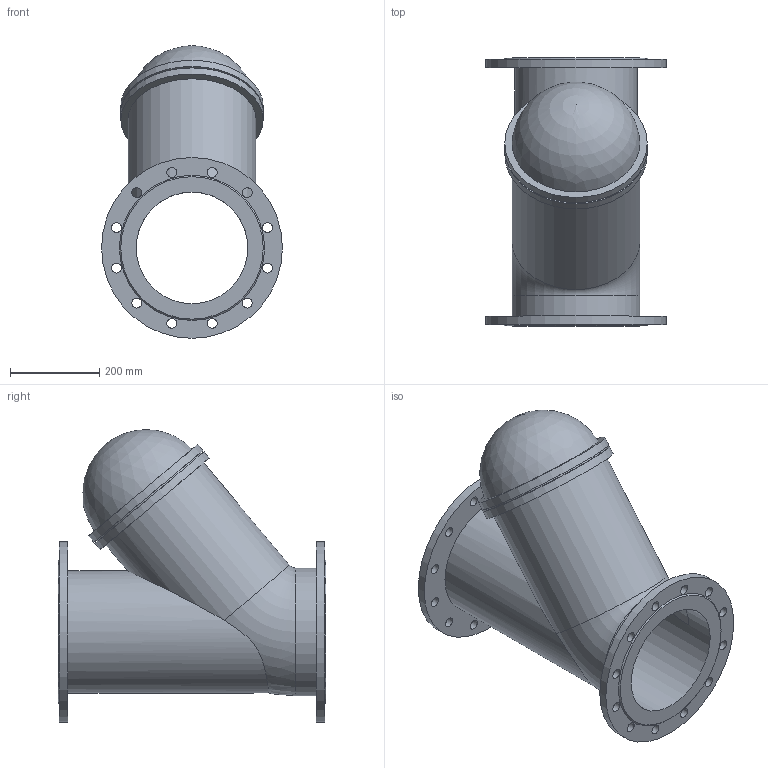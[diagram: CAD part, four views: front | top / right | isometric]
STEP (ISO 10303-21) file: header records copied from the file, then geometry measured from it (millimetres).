
FILE_DESCRIPTION(('STEP AP203'), '1');
FILE_NAME('Êëàïàí îáðàòíûé øàðîâîé ôëàíöåâûé 012F DN250', '', ('UNSPECIFIED'), ('UNSPECIFIED'), 'ASCON STEP Converter 1.6', 'ASCON Math Kernel', '');
FILE_SCHEMA(('CONFIG_CONTROL_DESIGN'));
Length unit declared in the file: millimetre
Bounding box: 405 x 600 x 655.36 mm (x, y, z)
Volume: 20821173.3 mm3; surface area: 1861726.8 mm2
Topology: 1 solids, 1 shells, 52 faces, 129 edges, 86 vertices
Faces by surface type: cylinder 35, plane 12, torus 2, cone 2, sphere 1
Full cylindrical faces by diameter (mm): 22 x24, 250 x2, 274 x1, 286 x2, 305 x1, 319 x2, 405 x2
Entity records: 2293 total; most frequent: CARTESIAN_POINT 605, DIRECTION 264, ORIENTED_EDGE 178, EDGE_LOOP 148, AXIS2_PLACEMENT_3D 132, EDGE_CURVE 89, VERTEX_POINT 85, CIRCLE 79
